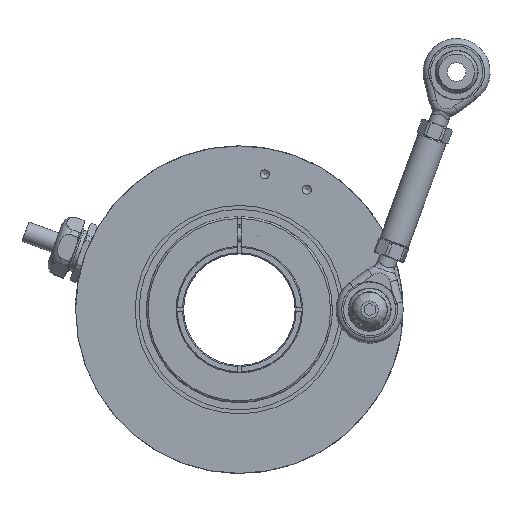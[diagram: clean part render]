
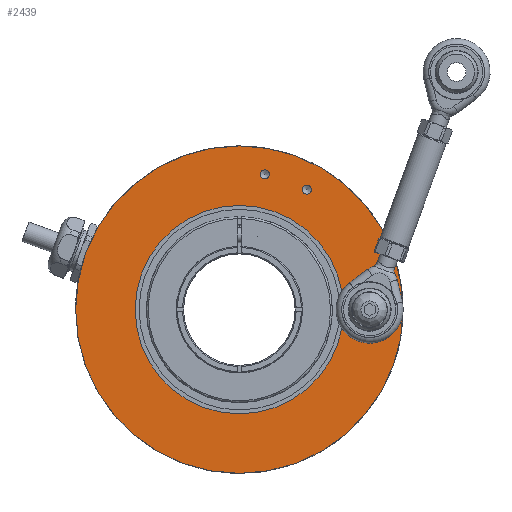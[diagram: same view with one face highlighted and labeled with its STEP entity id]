
A CAD part, left-side view. The second image highlights one B-rep face of the part: STEP entity #2439.
In plain terms, the highlighted planar face has unit normal (-1, 0, 0).
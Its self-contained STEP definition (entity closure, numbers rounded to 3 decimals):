
#2439 = ADVANCED_FACE( '', ( #4533, #4534, #4535, #4536, #4537 ), #4538, .T. );
#4533 = FACE_BOUND( '', #7947, .T. );
#4534 = FACE_BOUND( '', #7948, .T. );
#4535 = FACE_BOUND( '', #7949, .T. );
#4536 = FACE_OUTER_BOUND( '', #7950, .T. );
#4537 = FACE_BOUND( '', #7951, .T. );
#4538 = PLANE( '', #7952 );
#7947 = EDGE_LOOP( '', ( #11918 ) );
#7948 = EDGE_LOOP( '', ( #11919 ) );
#7949 = EDGE_LOOP( '', ( #11920 ) );
#7950 = EDGE_LOOP( '', ( #11921 ) );
#7951 = EDGE_LOOP( '', ( #11922 ) );
#7952 = AXIS2_PLACEMENT_3D( '', #11923, #11924, #11925 );
#11918 = ORIENTED_EDGE( '', *, *, #15625, .T. );
#11919 = ORIENTED_EDGE( '', *, *, #15970, .T. );
#11920 = ORIENTED_EDGE( '', *, *, #16357, .T. );
#11921 = ORIENTED_EDGE( '', *, *, #16358, .T. );
#11922 = ORIENTED_EDGE( '', *, *, #16359, .F. );
#11923 = CARTESIAN_POINT( '', ( 0., 0., 28. ) );
#11924 = DIRECTION( '', ( -1., 0., 0. ) );
#11925 = DIRECTION( '', ( 0., 0., 1. ) );
#15625 = EDGE_CURVE( '', #17950, #17950, #17951, .T. );
#15970 = EDGE_CURVE( '', #18520, #18520, #18521, .T. );
#16357 = EDGE_CURVE( '', #19098, #19098, #19099, .T. );
#16358 = EDGE_CURVE( '', #19100, #19100, #19101, .T. );
#16359 = EDGE_CURVE( '', #19102, #19102, #19103, .T. );
#17950 = VERTEX_POINT( '', #21266 );
#17951 = CIRCLE( '', #21267, 1.23 );
#18520 = VERTEX_POINT( '', #22572 );
#18521 = CIRCLE( '', #22573, 1.23 );
#19098 = VERTEX_POINT( '', #23896 );
#19099 = CIRCLE( '', #23897, 2.067 );
#19100 = VERTEX_POINT( '', #23898 );
#19101 = CIRCLE( '', #23899, 44. );
#19102 = VERTEX_POINT( '', #23900 );
#19103 = CIRCLE( '', #23901, 28. );
#21266 = CARTESIAN_POINT( '', ( 0., -6.846, 37.58 ) );
#21267 = AXIS2_PLACEMENT_3D( '', #26308, #26309, #26310 );
#22572 = CARTESIAN_POINT( '', ( 0., -18.122, 33.476 ) );
#22573 = AXIS2_PLACEMENT_3D( '', #26695, #26696, #26697 );
#23896 = CARTESIAN_POINT( '', ( 0., -35., 2.067 ) );
#23897 = AXIS2_PLACEMENT_3D( '', #27105, #27106, #27107 );
#23898 = CARTESIAN_POINT( '', ( 0., 0., 44. ) );
#23899 = AXIS2_PLACEMENT_3D( '', #27108, #27109, #27110 );
#23900 = CARTESIAN_POINT( '', ( 0., 0., 28. ) );
#23901 = AXIS2_PLACEMENT_3D( '', #27111, #27112, #27113 );
#26308 = CARTESIAN_POINT( '', ( 0., -6.846, 36.351 ) );
#26309 = DIRECTION( '', ( 1., 0., 0. ) );
#26310 = DIRECTION( '', ( 0., 0., 1. ) );
#26695 = CARTESIAN_POINT( '', ( 0., -18.122, 32.247 ) );
#26696 = DIRECTION( '', ( 1., 0., 0. ) );
#26697 = DIRECTION( '', ( 0., 0., 1. ) );
#27105 = CARTESIAN_POINT( '', ( 0., -35., 0. ) );
#27106 = DIRECTION( '', ( 1., 0., 0. ) );
#27107 = DIRECTION( '', ( 0., 0., 1. ) );
#27108 = CARTESIAN_POINT( '', ( 0., 0., 0. ) );
#27109 = DIRECTION( '', ( -1., 0., 0. ) );
#27110 = DIRECTION( '', ( 0., 0., 1. ) );
#27111 = CARTESIAN_POINT( '', ( 0., 0., 0. ) );
#27112 = DIRECTION( '', ( -1., 0., 0. ) );
#27113 = DIRECTION( '', ( 0., 0., 1. ) );
